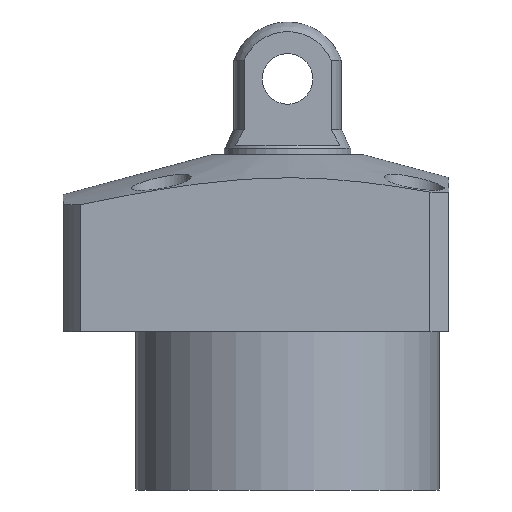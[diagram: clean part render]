
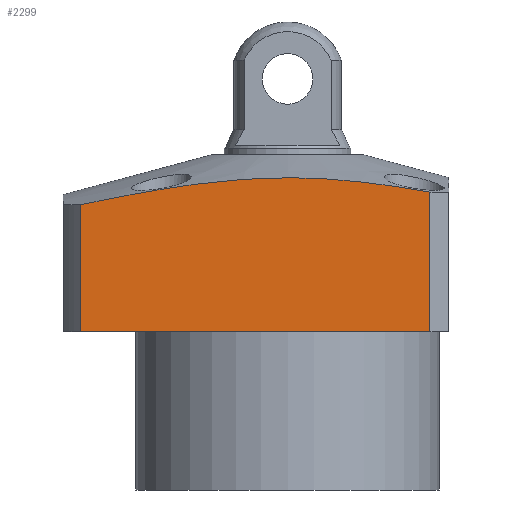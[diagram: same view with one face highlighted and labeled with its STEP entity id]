
A CAD part, front view. The second image highlights one B-rep face of the part: STEP entity #2299.
In plain terms, the highlighted planar face has unit normal (0, -1, 0).
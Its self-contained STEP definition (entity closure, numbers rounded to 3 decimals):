
#2 = CARTESIAN_POINT ( 'NONE',  ( 22.5, -25.5, 14. ) ) ;
#29 = DIRECTION ( 'NONE',  ( 0., 0., -1. ) ) ;
#94 = CARTESIAN_POINT ( 'NONE',  ( -32.741, -25.5, 14. ) ) ;
#120 = B_SPLINE_CURVE_WITH_KNOTS ( 'NONE', 3,
 ( #320, #538, #1272, #742, #1801, #925, #1266, #1618, #1070, #2160, #712, #369, #2188, #346, #1101, #1084, #174, #1807 ),
 .UNSPECIFIED., .F., .F.,
 ( 4, 2, 2, 2, 2, 2, 2, 2, 4 ),
 ( 0.029, 0.036, 0.043, 0.057, 0.064, 0.071, 0.074, 0.078, 0.085 ),
 .UNSPECIFIED. ) ;
#174 = CARTESIAN_POINT ( 'NONE',  ( 20.208, -25.5, 8.509 ) ) ;
#309 = VECTOR ( 'NONE', #2014, 1000. ) ;
#320 = CARTESIAN_POINT ( 'NONE',  ( -32.741, -25.5, 6.095 ) ) ;
#326 = VERTEX_POINT ( 'NONE', #2101 ) ;
#346 = CARTESIAN_POINT ( 'NONE',  ( 13.284, -25.5, 9.516 ) ) ;
#354 = CARTESIAN_POINT ( 'NONE',  ( 22.5, -25.5, 8.103 ) ) ;
#355 = VERTEX_POINT ( 'NONE', #1867 ) ;
#366 = LINE ( 'NONE', #1314, #309 ) ;
#369 = CARTESIAN_POINT ( 'NONE',  ( 9.796, -25.5, 9.902 ) ) ;
#452 = VECTOR ( 'NONE', #920, 1000. ) ;
#520 = EDGE_CURVE ( 'NONE', #355, #1461, #120, .T. ) ;
#538 = CARTESIAN_POINT ( 'NONE',  ( -30.466, -25.5, 6.577 ) ) ;
#616 = EDGE_CURVE ( 'NONE', #661, #326, #366, .T. ) ;
#661 = VERTEX_POINT ( 'NONE', #2033 ) ;
#712 = CARTESIAN_POINT ( 'NONE',  ( 6.31, -25.5, 10.201 ) ) ;
#742 = CARTESIAN_POINT ( 'NONE',  ( -23.614, -25.5, 7.913 ) ) ;
#788 = ORIENTED_EDGE ( 'NONE', *, *, #1504, .T. ) ;
#805 = ORIENTED_EDGE ( 'NONE', *, *, #1589, .T. ) ;
#808 = PLANE ( 'NONE',  #967 ) ;
#834 = ORIENTED_EDGE ( 'NONE', *, *, #520, .F. ) ;
#876 = EDGE_LOOP ( 'NONE', ( #890, #805, #834, #788 ) ) ;
#890 = ORIENTED_EDGE ( 'NONE', *, *, #616, .T. ) ;
#920 = DIRECTION ( 'NONE',  ( 0., 0., 1. ) ) ;
#925 = CARTESIAN_POINT ( 'NONE',  ( -14.452, -25.5, 9.423 ) ) ;
#967 = AXIS2_PLACEMENT_3D ( 'NONE', #94, #1961, #2328 ) ;
#1070 = CARTESIAN_POINT ( 'NONE',  ( -0.637, -25.5, 10.409 ) ) ;
#1084 = CARTESIAN_POINT ( 'NONE',  ( 17.909, -25.5, 8.883 ) ) ;
#1101 = CARTESIAN_POINT ( 'NONE',  ( 14.442, -25.5, 9.367 ) ) ;
#1266 = CARTESIAN_POINT ( 'NONE',  ( -9.861, -25.5, 9.99 ) ) ;
#1272 = CARTESIAN_POINT ( 'NONE',  ( -28.186, -25.5, 7.04 ) ) ;
#1308 = VECTOR ( 'NONE', #29, 1000. ) ;
#1314 = CARTESIAN_POINT ( 'NONE',  ( -32.741, -25.5, -14. ) ) ;
#1461 = VERTEX_POINT ( 'NONE', #354 ) ;
#1504 = EDGE_CURVE ( 'NONE', #355, #661, #2304, .T. ) ;
#1589 = EDGE_CURVE ( 'NONE', #326, #1461, #2132, .T. ) ;
#1618 = CARTESIAN_POINT ( 'NONE',  ( -2.947, -25.5, 10.364 ) ) ;
#1669 = CARTESIAN_POINT ( 'NONE',  ( -32.741, -25.5, 14. ) ) ;
#1674 = FACE_OUTER_BOUND ( 'NONE', #876, .T. ) ;
#1801 = CARTESIAN_POINT ( 'NONE',  ( -21.325, -25.5, 8.322 ) ) ;
#1807 = CARTESIAN_POINT ( 'NONE',  ( 22.5, -25.5, 8.103 ) ) ;
#1867 = CARTESIAN_POINT ( 'NONE',  ( -32.741, -25.5, 6.095 ) ) ;
#1961 = DIRECTION ( 'NONE',  ( 0., 1., 0. ) ) ;
#2014 = DIRECTION ( 'NONE',  ( 1., 0., 0. ) ) ;
#2033 = CARTESIAN_POINT ( 'NONE',  ( -32.741, -25.5, -14. ) ) ;
#2101 = CARTESIAN_POINT ( 'NONE',  ( 22.5, -25.5, -14. ) ) ;
#2132 = LINE ( 'NONE', #2, #452 ) ;
#2160 = CARTESIAN_POINT ( 'NONE',  ( 3.991, -25.5, 10.327 ) ) ;
#2188 = CARTESIAN_POINT ( 'NONE',  ( 10.959, -25.5, 9.784 ) ) ;
#2299 = ADVANCED_FACE ( 'NONE', ( #1674 ), #808, .F. ) ;
#2304 = LINE ( 'NONE', #1669, #1308 ) ;
#2328 = DIRECTION ( 'NONE',  ( -1., 0., 0. ) ) ;
